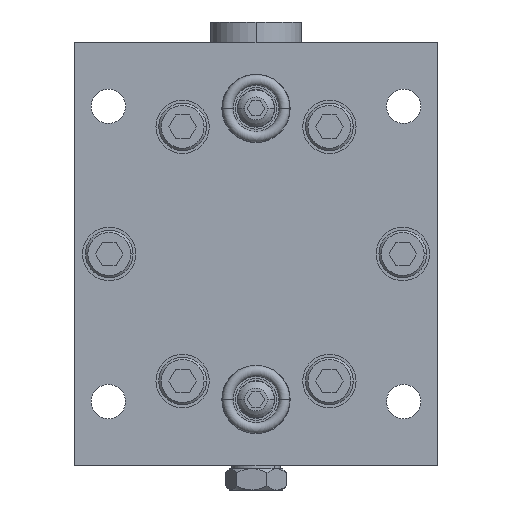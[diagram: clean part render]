
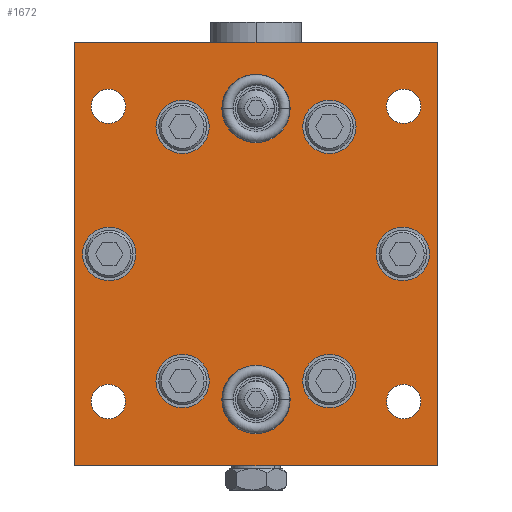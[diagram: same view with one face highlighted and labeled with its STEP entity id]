
A CAD part, front view. The second image highlights one B-rep face of the part: STEP entity #1672.
In plain terms, the highlighted planar face has unit normal (0, -1, 0).
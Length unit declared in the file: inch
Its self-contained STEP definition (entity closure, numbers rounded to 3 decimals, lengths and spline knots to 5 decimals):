
#1=DIRECTION('',(0.,0.,1.));
#2=VECTOR('',#1,3.5);
#3=CARTESIAN_POINT('',(-1.5,0.,-1.75));
#4=LINE('',#3,#2);
#5=DIRECTION('',(1.,0.,0.));
#6=VECTOR('',#5,3.);
#7=CARTESIAN_POINT('',(-1.5,0.,1.75));
#8=LINE('',#7,#6);
#9=DIRECTION('',(0.,0.,-1.));
#10=VECTOR('',#9,3.5);
#11=CARTESIAN_POINT('',(1.5,0.,1.75));
#12=LINE('',#11,#10);
#13=DIRECTION('',(-1.,0.,0.));
#14=VECTOR('',#13,3.);
#15=CARTESIAN_POINT('',(1.5,0.,-1.75));
#16=LINE('',#15,#14);
#17=CARTESIAN_POINT('',(-1.22,0.,-1.22));
#18=DIRECTION('',(0.,-1.,0.));
#19=DIRECTION('',(1.,0.,0.));
#20=AXIS2_PLACEMENT_3D('',#17,#18,#19);
#22=CARTESIAN_POINT('',(-1.22,0.,-1.22));
#23=DIRECTION('',(0.,-1.,0.));
#24=DIRECTION('',(-1.,0.,0.));
#25=AXIS2_PLACEMENT_3D('',#22,#23,#24);
#27=CARTESIAN_POINT('',(1.22,0.,-1.22));
#28=DIRECTION('',(0.,-1.,0.));
#29=DIRECTION('',(0.,0.,1.));
#30=AXIS2_PLACEMENT_3D('',#27,#28,#29);
#32=CARTESIAN_POINT('',(1.22,0.,-1.22));
#33=DIRECTION('',(0.,-1.,0.));
#34=DIRECTION('',(0.,0.,-1.));
#35=AXIS2_PLACEMENT_3D('',#32,#33,#34);
#37=CARTESIAN_POINT('',(1.22,0.,1.22));
#38=DIRECTION('',(0.,-1.,0.));
#39=DIRECTION('',(-1.,0.,0.));
#40=AXIS2_PLACEMENT_3D('',#37,#38,#39);
#42=CARTESIAN_POINT('',(1.22,0.,1.22));
#43=DIRECTION('',(0.,-1.,0.));
#44=DIRECTION('',(1.,0.,0.));
#45=AXIS2_PLACEMENT_3D('',#42,#43,#44);
#47=CARTESIAN_POINT('',(-1.22,0.,1.22));
#48=DIRECTION('',(0.,-1.,0.));
#49=DIRECTION('',(0.,0.,-1.));
#50=AXIS2_PLACEMENT_3D('',#47,#48,#49);
#52=CARTESIAN_POINT('',(-1.22,0.,1.22));
#53=DIRECTION('',(0.,-1.,0.));
#54=DIRECTION('',(0.,0.,1.));
#55=AXIS2_PLACEMENT_3D('',#52,#53,#54);
#57=CARTESIAN_POINT('',(1.213,0.,0.));
#58=DIRECTION('',(0.,1.,0.));
#59=DIRECTION('',(-1.,0.,0.));
#60=AXIS2_PLACEMENT_3D('',#57,#58,#59);
#62=CARTESIAN_POINT('',(1.213,0.,0.));
#63=DIRECTION('',(0.,1.,0.));
#64=DIRECTION('',(1.,0.,0.));
#65=AXIS2_PLACEMENT_3D('',#62,#63,#64);
#67=CARTESIAN_POINT('',(0.6065,0.,1.05049));
#68=DIRECTION('',(0.,1.,0.));
#69=DIRECTION('',(-0.5,0.,-0.866));
#70=AXIS2_PLACEMENT_3D('',#67,#68,#69);
#72=CARTESIAN_POINT('',(0.6065,0.,1.05049));
#73=DIRECTION('',(0.,1.,0.));
#74=DIRECTION('',(0.5,0.,0.866));
#75=AXIS2_PLACEMENT_3D('',#72,#73,#74);
#77=CARTESIAN_POINT('',(-0.6065,0.,1.05049));
#78=DIRECTION('',(0.,1.,0.));
#79=DIRECTION('',(0.5,0.,-0.866));
#80=AXIS2_PLACEMENT_3D('',#77,#78,#79);
#82=CARTESIAN_POINT('',(-0.6065,0.,1.05049));
#83=DIRECTION('',(0.,1.,0.));
#84=DIRECTION('',(-0.5,0.,0.866));
#85=AXIS2_PLACEMENT_3D('',#82,#83,#84);
#87=CARTESIAN_POINT('',(-1.213,0.,0.));
#88=DIRECTION('',(0.,1.,0.));
#89=DIRECTION('',(1.,0.,0.));
#90=AXIS2_PLACEMENT_3D('',#87,#88,#89);
#92=CARTESIAN_POINT('',(-1.213,0.,0.));
#93=DIRECTION('',(0.,1.,0.));
#94=DIRECTION('',(-1.,0.,0.));
#95=AXIS2_PLACEMENT_3D('',#92,#93,#94);
#97=CARTESIAN_POINT('',(-0.6065,0.,-1.05049));
#98=DIRECTION('',(0.,1.,0.));
#99=DIRECTION('',(0.5,0.,0.866));
#100=AXIS2_PLACEMENT_3D('',#97,#98,#99);
#102=CARTESIAN_POINT('',(-0.6065,0.,-1.05049));
#103=DIRECTION('',(0.,1.,0.));
#104=DIRECTION('',(-0.5,0.,-0.866));
#105=AXIS2_PLACEMENT_3D('',#102,#103,#104);
#107=CARTESIAN_POINT('',(0.6065,0.,-1.05049));
#108=DIRECTION('',(0.,1.,0.));
#109=DIRECTION('',(-0.5,0.,0.866));
#110=AXIS2_PLACEMENT_3D('',#107,#108,#109);
#112=CARTESIAN_POINT('',(0.6065,0.,-1.05049));
#113=DIRECTION('',(0.,1.,0.));
#114=DIRECTION('',(0.5,0.,-0.866));
#115=AXIS2_PLACEMENT_3D('',#112,#113,#114);
#117=CARTESIAN_POINT('',(0.,0.,1.203));
#118=DIRECTION('',(0.,1.,0.));
#119=DIRECTION('',(-1.,0.,0.));
#120=AXIS2_PLACEMENT_3D('',#117,#118,#119);
#122=CARTESIAN_POINT('',(0.,0.,1.203));
#123=DIRECTION('',(0.,1.,0.));
#124=DIRECTION('',(1.,0.,0.));
#125=AXIS2_PLACEMENT_3D('',#122,#123,#124);
#127=CARTESIAN_POINT('',(0.,0.,-1.203));
#128=DIRECTION('',(0.,-1.,0.));
#129=DIRECTION('',(-1.,0.,0.));
#130=AXIS2_PLACEMENT_3D('',#127,#128,#129);
#132=CARTESIAN_POINT('',(0.,0.,-1.203));
#133=DIRECTION('',(0.,-1.,0.));
#134=DIRECTION('',(1.,0.,0.));
#135=AXIS2_PLACEMENT_3D('',#132,#133,#134);
#1260=CARTESIAN_POINT('',(-1.5,0.,-1.75));
#1261=CARTESIAN_POINT('',(-1.5,0.,1.75));
#1262=VERTEX_POINT('',#1260);
#1263=VERTEX_POINT('',#1261);
#1264=CARTESIAN_POINT('',(1.5,0.,1.75));
#1265=VERTEX_POINT('',#1264);
#1266=CARTESIAN_POINT('',(1.5,0.,-1.75));
#1267=VERTEX_POINT('',#1266);
#1276=CARTESIAN_POINT('',(-1.078,0.,-1.22));
#1277=CARTESIAN_POINT('',(-1.362,0.,-1.22));
#1278=VERTEX_POINT('',#1276);
#1279=VERTEX_POINT('',#1277);
#1316=CARTESIAN_POINT('',(1.22,0.,-1.078));
#1317=CARTESIAN_POINT('',(1.22,0.,-1.362));
#1318=VERTEX_POINT('',#1316);
#1319=VERTEX_POINT('',#1317);
#1324=CARTESIAN_POINT('',(1.078,0.,1.22));
#1325=CARTESIAN_POINT('',(1.362,0.,1.22));
#1326=VERTEX_POINT('',#1324);
#1327=VERTEX_POINT('',#1325);
#1332=CARTESIAN_POINT('',(-1.22,0.,1.078));
#1333=CARTESIAN_POINT('',(-1.22,0.,1.362));
#1334=VERTEX_POINT('',#1332);
#1335=VERTEX_POINT('',#1333);
#1416=CARTESIAN_POINT('',(0.9925,0.,0.));
#1417=CARTESIAN_POINT('',(1.4335,0.,0.));
#1418=VERTEX_POINT('',#1416);
#1419=VERTEX_POINT('',#1417);
#1428=CARTESIAN_POINT('',(0.49625,0.,0.85953));
#1429=VERTEX_POINT('',#1428);
#1430=CARTESIAN_POINT('',(0.71675,0.,1.24145));
#1431=VERTEX_POINT('',#1430);
#1436=CARTESIAN_POINT('',(-0.49625,0.,0.85953));
#1437=VERTEX_POINT('',#1436);
#1438=CARTESIAN_POINT('',(-0.71675,0.,1.24145));
#1439=VERTEX_POINT('',#1438);
#1444=CARTESIAN_POINT('',(-0.9925,0.,0.));
#1445=VERTEX_POINT('',#1444);
#1446=CARTESIAN_POINT('',(-1.4335,0.,0.));
#1447=VERTEX_POINT('',#1446);
#1452=CARTESIAN_POINT('',(-0.49625,0.,-0.85953));
#1453=VERTEX_POINT('',#1452);
#1454=CARTESIAN_POINT('',(-0.71675,0.,-1.24145));
#1455=VERTEX_POINT('',#1454);
#1460=CARTESIAN_POINT('',(0.49625,0.,-0.85953));
#1461=VERTEX_POINT('',#1460);
#1462=CARTESIAN_POINT('',(0.71675,0.,-1.24145));
#1463=VERTEX_POINT('',#1462);
#1538=CARTESIAN_POINT('',(-0.2825,0.,1.203));
#1539=CARTESIAN_POINT('',(0.2825,0.,1.203));
#1540=VERTEX_POINT('',#1538);
#1541=VERTEX_POINT('',#1539);
#1562=CARTESIAN_POINT('',(-0.2825,0.,-1.203));
#1563=VERTEX_POINT('',#1562);
#1564=CARTESIAN_POINT('',(0.2825,0.,-1.203));
#1565=VERTEX_POINT('',#1564);
#1585=CARTESIAN_POINT('',(0.,0.,0.));
#1586=DIRECTION('',(0.,1.,0.));
#1587=DIRECTION('',(1.,0.,0.));
#1588=AXIS2_PLACEMENT_3D('',#1585,#1586,#1587);
#1589=PLANE('',#1588);
#1591=ORIENTED_EDGE('',*,*,#1590,.T.);
#1593=ORIENTED_EDGE('',*,*,#1592,.T.);
#1595=ORIENTED_EDGE('',*,*,#1594,.T.);
#1597=ORIENTED_EDGE('',*,*,#1596,.T.);
#1598=EDGE_LOOP('',(#1591,#1593,#1595,#1597));
#1599=FACE_OUTER_BOUND('',#1598,.F.);
#1601=ORIENTED_EDGE('',*,*,#1600,.T.);
#1603=ORIENTED_EDGE('',*,*,#1602,.T.);
#1604=EDGE_LOOP('',(#1601,#1603));
#1605=FACE_BOUND('',#1604,.F.);
#1607=ORIENTED_EDGE('',*,*,#1606,.T.);
#1609=ORIENTED_EDGE('',*,*,#1608,.T.);
#1610=EDGE_LOOP('',(#1607,#1609));
#1611=FACE_BOUND('',#1610,.F.);
#1613=ORIENTED_EDGE('',*,*,#1612,.T.);
#1615=ORIENTED_EDGE('',*,*,#1614,.T.);
#1616=EDGE_LOOP('',(#1613,#1615));
#1617=FACE_BOUND('',#1616,.F.);
#1619=ORIENTED_EDGE('',*,*,#1618,.T.);
#1621=ORIENTED_EDGE('',*,*,#1620,.T.);
#1622=EDGE_LOOP('',(#1619,#1621));
#1623=FACE_BOUND('',#1622,.F.);
#1625=ORIENTED_EDGE('',*,*,#1624,.F.);
#1627=ORIENTED_EDGE('',*,*,#1626,.F.);
#1628=EDGE_LOOP('',(#1625,#1627));
#1629=FACE_BOUND('',#1628,.F.);
#1631=ORIENTED_EDGE('',*,*,#1630,.F.);
#1633=ORIENTED_EDGE('',*,*,#1632,.F.);
#1634=EDGE_LOOP('',(#1631,#1633));
#1635=FACE_BOUND('',#1634,.F.);
#1637=ORIENTED_EDGE('',*,*,#1636,.F.);
#1639=ORIENTED_EDGE('',*,*,#1638,.F.);
#1640=EDGE_LOOP('',(#1637,#1639));
#1641=FACE_BOUND('',#1640,.F.);
#1643=ORIENTED_EDGE('',*,*,#1642,.F.);
#1645=ORIENTED_EDGE('',*,*,#1644,.F.);
#1646=EDGE_LOOP('',(#1643,#1645));
#1647=FACE_BOUND('',#1646,.F.);
#1649=ORIENTED_EDGE('',*,*,#1648,.F.);
#1651=ORIENTED_EDGE('',*,*,#1650,.F.);
#1652=EDGE_LOOP('',(#1649,#1651));
#1653=FACE_BOUND('',#1652,.F.);
#1655=ORIENTED_EDGE('',*,*,#1654,.F.);
#1657=ORIENTED_EDGE('',*,*,#1656,.F.);
#1658=EDGE_LOOP('',(#1655,#1657));
#1659=FACE_BOUND('',#1658,.F.);
#1661=ORIENTED_EDGE('',*,*,#1660,.F.);
#1663=ORIENTED_EDGE('',*,*,#1662,.F.);
#1664=EDGE_LOOP('',(#1661,#1663));
#1665=FACE_BOUND('',#1664,.F.);
#1667=ORIENTED_EDGE('',*,*,#1666,.T.);
#1669=ORIENTED_EDGE('',*,*,#1668,.T.);
#1670=EDGE_LOOP('',(#1667,#1669));
#1671=FACE_BOUND('',#1670,.F.);
#1672=ADVANCED_FACE('',(#1599,#1605,#1611,#1617,#1623,#1629,#1635,#1641,#1647,
#1653,#1659,#1665,#1671),#1589,.F.);
#21=CIRCLE('',#20,0.142);
#26=CIRCLE('',#25,0.142);
#31=CIRCLE('',#30,0.142);
#36=CIRCLE('',#35,0.142);
#41=CIRCLE('',#40,0.142);
#46=CIRCLE('',#45,0.142);
#51=CIRCLE('',#50,0.142);
#56=CIRCLE('',#55,0.142);
#61=CIRCLE('',#60,0.2205);
#66=CIRCLE('',#65,0.2205);
#71=CIRCLE('',#70,0.2205);
#76=CIRCLE('',#75,0.2205);
#81=CIRCLE('',#80,0.2205);
#86=CIRCLE('',#85,0.2205);
#91=CIRCLE('',#90,0.2205);
#96=CIRCLE('',#95,0.2205);
#101=CIRCLE('',#100,0.2205);
#106=CIRCLE('',#105,0.2205);
#111=CIRCLE('',#110,0.2205);
#116=CIRCLE('',#115,0.2205);
#121=CIRCLE('',#120,0.2825);
#126=CIRCLE('',#125,0.2825);
#131=CIRCLE('',#130,0.2825);
#136=CIRCLE('',#135,0.2825);
#1590=EDGE_CURVE('',#1262,#1263,#4,.T.);
#1592=EDGE_CURVE('',#1263,#1265,#8,.T.);
#1594=EDGE_CURVE('',#1265,#1267,#12,.T.);
#1596=EDGE_CURVE('',#1267,#1262,#16,.T.);
#1600=EDGE_CURVE('',#1278,#1279,#21,.T.);
#1602=EDGE_CURVE('',#1279,#1278,#26,.T.);
#1606=EDGE_CURVE('',#1318,#1319,#31,.T.);
#1608=EDGE_CURVE('',#1319,#1318,#36,.T.);
#1612=EDGE_CURVE('',#1326,#1327,#41,.T.);
#1614=EDGE_CURVE('',#1327,#1326,#46,.T.);
#1618=EDGE_CURVE('',#1334,#1335,#51,.T.);
#1620=EDGE_CURVE('',#1335,#1334,#56,.T.);
#1624=EDGE_CURVE('',#1418,#1419,#61,.T.);
#1626=EDGE_CURVE('',#1419,#1418,#66,.T.);
#1630=EDGE_CURVE('',#1429,#1431,#71,.T.);
#1632=EDGE_CURVE('',#1431,#1429,#76,.T.);
#1636=EDGE_CURVE('',#1437,#1439,#81,.T.);
#1638=EDGE_CURVE('',#1439,#1437,#86,.T.);
#1642=EDGE_CURVE('',#1445,#1447,#91,.T.);
#1644=EDGE_CURVE('',#1447,#1445,#96,.T.);
#1648=EDGE_CURVE('',#1453,#1455,#101,.T.);
#1650=EDGE_CURVE('',#1455,#1453,#106,.T.);
#1654=EDGE_CURVE('',#1461,#1463,#111,.T.);
#1656=EDGE_CURVE('',#1463,#1461,#116,.T.);
#1660=EDGE_CURVE('',#1540,#1541,#121,.T.);
#1662=EDGE_CURVE('',#1541,#1540,#126,.T.);
#1666=EDGE_CURVE('',#1563,#1565,#131,.T.);
#1668=EDGE_CURVE('',#1565,#1563,#136,.T.);
